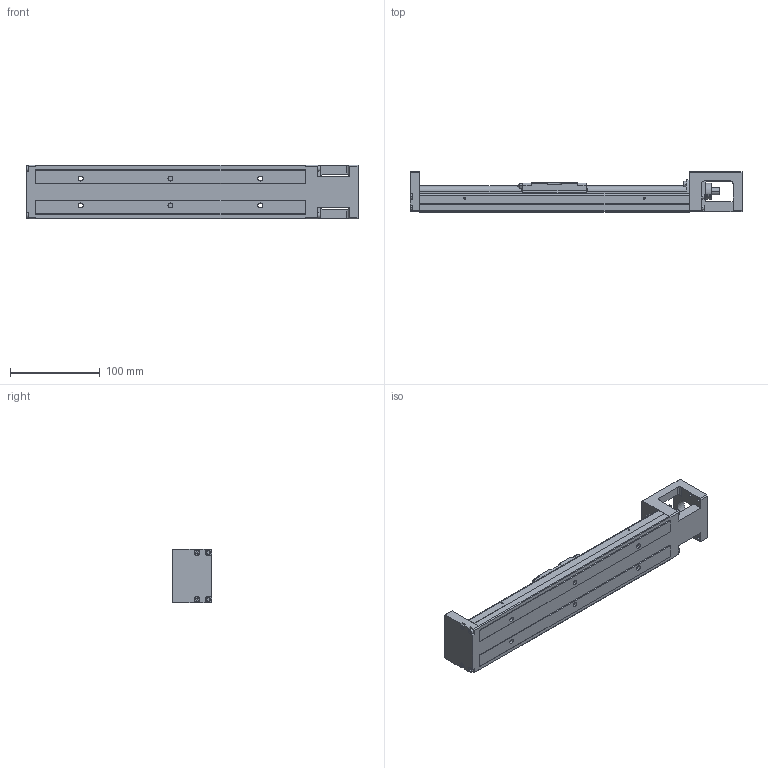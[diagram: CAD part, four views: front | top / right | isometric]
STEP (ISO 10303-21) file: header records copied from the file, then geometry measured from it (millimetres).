
FILE_DESCRIPTION (( 'STEP AP203' ), '1' );
FILE_NAME ('HKK60D10C300A1F0.stp', '2021-11-25T02:13:55', ( '' ), ( '' ), 'SwSTEP 2.0', 'SolidWorks 2018', '' );
FILE_SCHEMA (( 'CONFIG_CONTROL_DESIGN' ));
Length unit declared in the file: millimetre
Products named in the file (1): HKK60D10C300A1F0
Bounding box: 370 x 44.5 x 60 mm (x, y, z)
Volume: 406143.3 mm3; surface area: 112930.8 mm2
Topology: 2 solids, 2 shells, 525 faces, 1388 edges, 895 vertices
Faces by surface type: plane 314, cylinder 167, cone 34, torus 8, sphere 2
Entity records: 16299 total; most frequent: CARTESIAN_POINT 3063, DIRECTION 2728, ORIENTED_EDGE 2708, EDGE_CURVE 1354, VECTOR 964, LINE 964, VERTEX_POINT 895, AXIS2_PLACEMENT_3D 882
